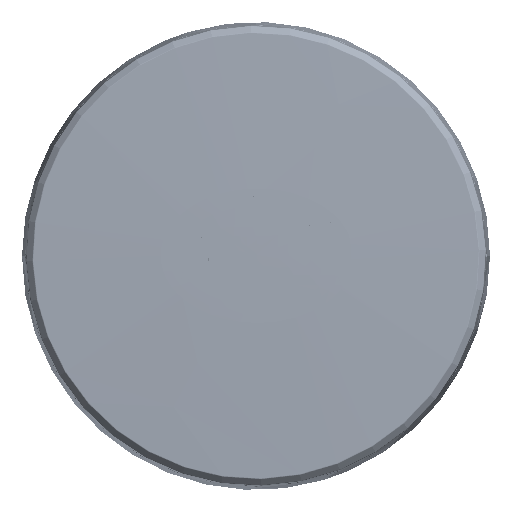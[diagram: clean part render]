
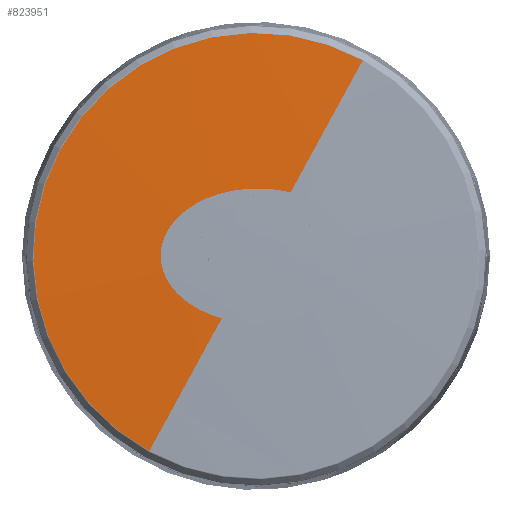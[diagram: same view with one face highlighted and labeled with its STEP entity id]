
A CAD part, top view. The second image highlights one B-rep face of the part: STEP entity #823951.
In plain terms, the highlighted spherical face has radius 2000 mm.
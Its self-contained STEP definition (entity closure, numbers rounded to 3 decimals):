
#823823=AXIS2_PLACEMENT_3D('Sphere Axis2P3D',#823820,#823821,#823822) ;
#823827=AXIS2_PLACEMENT_3D('Circle Axis2P3D',#823825,#823826,$) ;
#823836=AXIS2_PLACEMENT_3D('Circle Axis2P3D',#823834,#823835,$) ;
#823843=AXIS2_PLACEMENT_3D('Circle Axis2P3D',#823841,#823842,$) ;
#823820=CARTESIAN_POINT('Axis2P3D Location',(0.,0.,-1974.28)) ;
#823825=CARTESIAN_POINT('Axis2P3D Location',(0.,0.,-1974.28)) ;
#823829=CARTESIAN_POINT('Vertex',(33.795,61.862,24.477)) ;
#823831=CARTESIAN_POINT('Vertex',(10.931,20.009,25.59)) ;
#823834=CARTESIAN_POINT('Axis2P3D Location',(0.,0.,24.477)) ;
#823838=CARTESIAN_POINT('Vertex',(-33.795,-61.862,24.477)) ;
#823841=CARTESIAN_POINT('Axis2P3D Location',(0.,0.,-1974.28)) ;
#823845=CARTESIAN_POINT('Vertex',(-10.82,-19.807,25.593)) ;
#823849=CARTESIAN_POINT('Control Point',(-30.151,-0.001,25.493)) ;
#823850=CARTESIAN_POINT('Control Point',(-30.151,-0.007,25.493)) ;
#823851=CARTESIAN_POINT('Control Point',(-30.152,-0.012,25.493)) ;
#823852=CARTESIAN_POINT('Control Point',(-30.151,-0.017,25.493)) ;
#823853=CARTESIAN_POINT('Control Point',(-30.151,-0.045,25.493)) ;
#823854=CARTESIAN_POINT('Control Point',(-30.151,-0.073,25.493)) ;
#823855=CARTESIAN_POINT('Control Point',(-30.151,-0.095,25.493)) ;
#823856=CARTESIAN_POINT('Control Point',(-30.15,-0.146,25.493)) ;
#823857=CARTESIAN_POINT('Control Point',(-30.15,-0.196,25.493)) ;
#823858=CARTESIAN_POINT('Control Point',(-30.149,-0.224,25.493)) ;
#823859=CARTESIAN_POINT('Control Point',(-30.148,-0.308,25.493)) ;
#823860=CARTESIAN_POINT('Control Point',(-30.146,-0.391,25.493)) ;
#823861=CARTESIAN_POINT('Control Point',(-30.145,-0.447,25.493)) ;
#823862=CARTESIAN_POINT('Control Point',(-30.14,-0.614,25.493)) ;
#823863=CARTESIAN_POINT('Control Point',(-30.132,-0.781,25.493)) ;
#823864=CARTESIAN_POINT('Control Point',(-30.126,-0.893,25.493)) ;
#823865=CARTESIAN_POINT('Control Point',(-30.105,-1.226,25.493)) ;
#823866=CARTESIAN_POINT('Control Point',(-30.075,-1.559,25.493)) ;
#823867=CARTESIAN_POINT('Control Point',(-30.05,-1.781,25.493)) ;
#823868=CARTESIAN_POINT('Control Point',(-29.965,-2.445,25.494)) ;
#823869=CARTESIAN_POINT('Control Point',(-29.844,-3.103,25.495)) ;
#823870=CARTESIAN_POINT('Control Point',(-29.747,-3.538,25.496)) ;
#823871=CARTESIAN_POINT('Control Point',(-29.474,-4.583,25.498)) ;
#823872=CARTESIAN_POINT('Control Point',(-29.112,-5.601,25.5)) ;
#823873=CARTESIAN_POINT('Control Point',(-28.871,-6.188,25.502)) ;
#823874=CARTESIAN_POINT('Control Point',(-28.525,-6.926,25.505)) ;
#823875=CARTESIAN_POINT('Control Point',(-28.138,-7.641,25.507)) ;
#823876=CARTESIAN_POINT('Control Point',(-28.049,-7.801,25.508)) ;
#823877=CARTESIAN_POINT('Control Point',(-27.461,-8.824,25.512)) ;
#823878=CARTESIAN_POINT('Control Point',(-26.794,-9.795,25.517)) ;
#823879=CARTESIAN_POINT('Control Point',(-26.19,-10.568,25.521)) ;
#823880=CARTESIAN_POINT('Control Point',(-25.025,-11.892,25.529)) ;
#823881=CARTESIAN_POINT('Control Point',(-23.762,-13.077,25.536)) ;
#823882=CARTESIAN_POINT('Control Point',(-23.195,-13.568,25.54)) ;
#823883=CARTESIAN_POINT('Control Point',(-20.451,-15.776,25.556)) ;
#823884=CARTESIAN_POINT('Control Point',(-17.517,-17.422,25.57)) ;
#823885=CARTESIAN_POINT('Control Point',(-15.24,-18.425,25.579)) ;
#823886=CARTESIAN_POINT('Control Point',(-13.007,-19.207,25.587)) ;
#823887=CARTESIAN_POINT('Control Point',(-10.82,-19.807,25.593)) ;
#823888=CARTESIAN_POINT('Vertex',(-30.151,-0.001,25.493)) ;
#823892=CARTESIAN_POINT('Control Point',(-30.151,0.007,25.493)) ;
#823893=CARTESIAN_POINT('Control Point',(-30.151,0.004,25.493)) ;
#823894=CARTESIAN_POINT('Control Point',(-30.151,0.002,25.493)) ;
#823895=CARTESIAN_POINT('Control Point',(-30.151,-0.001,25.493)) ;
#823896=CARTESIAN_POINT('Vertex',(-30.151,0.007,25.493)) ;
#823900=CARTESIAN_POINT('Control Point',(-30.151,0.007,25.493)) ;
#823901=CARTESIAN_POINT('Control Point',(-30.152,1.479,25.493)) ;
#823902=CARTESIAN_POINT('Control Point',(-29.976,2.95,25.494)) ;
#823903=CARTESIAN_POINT('Control Point',(-29.616,4.392,25.497)) ;
#823904=CARTESIAN_POINT('Control Point',(-29.024,5.951,25.501)) ;
#823905=CARTESIAN_POINT('Control Point',(-28.26,7.415,25.507)) ;
#823906=CARTESIAN_POINT('Control Point',(-28.172,7.578,25.507)) ;
#823907=CARTESIAN_POINT('Control Point',(-27.911,8.047,25.509)) ;
#823908=CARTESIAN_POINT('Control Point',(-27.634,8.505,25.511)) ;
#823909=CARTESIAN_POINT('Control Point',(-27.443,8.804,25.512)) ;
#823910=CARTESIAN_POINT('Control Point',(-27.184,9.19,25.514)) ;
#823911=CARTESIAN_POINT('Control Point',(-26.915,9.568,25.516)) ;
#823912=CARTESIAN_POINT('Control Point',(-26.848,9.66,25.516)) ;
#823913=CARTESIAN_POINT('Control Point',(-26.273,10.442,25.52)) ;
#823914=CARTESIAN_POINT('Control Point',(-25.655,11.184,25.524)) ;
#823915=CARTESIAN_POINT('Control Point',(-25.083,11.804,25.528)) ;
#823916=CARTESIAN_POINT('Control Point',(-24.096,12.781,25.534)) ;
#823917=CARTESIAN_POINT('Control Point',(-23.059,13.669,25.54)) ;
#823918=CARTESIAN_POINT('Control Point',(-22.641,14.009,25.543)) ;
#823919=CARTESIAN_POINT('Control Point',(-22.18,14.365,25.545)) ;
#823920=CARTESIAN_POINT('Control Point',(-21.714,14.705,25.548)) ;
#823921=CARTESIAN_POINT('Control Point',(-21.67,14.737,25.548)) ;
#823922=CARTESIAN_POINT('Control Point',(-21.593,14.793,25.549)) ;
#823923=CARTESIAN_POINT('Control Point',(-21.517,14.848,25.549)) ;
#823924=CARTESIAN_POINT('Control Point',(-21.477,14.876,25.549)) ;
#823925=CARTESIAN_POINT('Control Point',(-21.361,14.959,25.55)) ;
#823926=CARTESIAN_POINT('Control Point',(-21.244,15.041,25.551)) ;
#823927=CARTESIAN_POINT('Control Point',(-21.163,15.097,25.551)) ;
#823928=CARTESIAN_POINT('Control Point',(-21.03,15.188,25.552)) ;
#823929=CARTESIAN_POINT('Control Point',(-20.896,15.279,25.552)) ;
#823930=CARTESIAN_POINT('Control Point',(-20.841,15.316,25.553)) ;
#823931=CARTESIAN_POINT('Control Point',(-19.74,16.052,25.559)) ;
#823932=CARTESIAN_POINT('Control Point',(-18.624,16.71,25.564)) ;
#823933=CARTESIAN_POINT('Control Point',(-17.56,17.268,25.569)) ;
#823934=CARTESIAN_POINT('Control Point',(-15.805,18.094,25.576)) ;
#823935=CARTESIAN_POINT('Control Point',(-14.065,18.773,25.583)) ;
#823936=CARTESIAN_POINT('Control Point',(-13.382,19.02,25.585)) ;
#823937=CARTESIAN_POINT('Control Point',(-7.916,20.849,25.603)) ;
#823938=CARTESIAN_POINT('Control Point',(-2.721,21.484,25.61)) ;
#823939=CARTESIAN_POINT('Control Point',(1.582,21.575,25.61)) ;
#823940=CARTESIAN_POINT('Control Point',(6.121,21.224,25.604)) ;
#823941=CARTESIAN_POINT('Control Point',(10.931,20.009,25.59)) ;
#823821=DIRECTION('Axis2P3D Direction',(0.,-0.,-1.)) ;
#823822=DIRECTION('Axis2P3D XDirection',(-0.479,-0.878,0.)) ;
#823826=DIRECTION('Axis2P3D Direction',(-0.878,0.479,0.)) ;
#823835=DIRECTION('Axis2P3D Direction',(0.,-0.,-1.)) ;
#823842=DIRECTION('Axis2P3D Direction',(0.878,-0.479,0.)) ;
#823944=ORIENTED_EDGE('',*,*,#823833,.F.) ;
#823945=ORIENTED_EDGE('',*,*,#823840,.F.) ;
#823946=ORIENTED_EDGE('',*,*,#823847,.T.) ;
#823947=ORIENTED_EDGE('',*,*,#823890,.F.) ;
#823948=ORIENTED_EDGE('',*,*,#823898,.F.) ;
#823949=ORIENTED_EDGE('',*,*,#823942,.T.) ;
#823951=ADVANCED_FACE('K-LED Rebelution with Flexible Pipe Socket',(#823950),#823824,.T.) ;
#823848=B_SPLINE_CURVE_WITH_KNOTS('',5,(#823849,#823850,#823851,#823852,#823853,#823854,#823855,#823856,#823857,#823858,#823859,#823860,#823861,#823862,#823863,#823864,#823865,#823866,#823867,#823868,#823869,#823870,#823871,#823872,#823873,#823874,#823875,#823876,#823877,#823878,#823879,#823880,#823881,#823882,#823883,#823884,#823885,#823886,#823887),.UNSPECIFIED.,.F.,.U.,(6,3,3,3,3,3,3,3,3,3,3,3,6),(0.,1.742,9.262,18.525,37.05,74.1,148.2,296.4,507.066,567.713,901.54,1167.564,2146.504),.UNSPECIFIED.) ;
#823891=B_SPLINE_CURVE_WITH_KNOTS('',3,(#823892,#823893,#823894,#823895),.UNSPECIFIED.,.F.,.U.,(4,4),(0.,0.601),.UNSPECIFIED.) ;
#823899=B_SPLINE_CURVE_WITH_KNOTS('',5,(#823900,#823901,#823902,#823903,#823904,#823905,#823906,#823907,#823908,#823909,#823910,#823911,#823912,#823913,#823914,#823915,#823916,#823917,#823918,#823919,#823920,#823921,#823922,#823923,#823924,#823925,#823926,#823927,#823928,#823929,#823930,#823931,#823932,#823933,#823934,#823935,#823936,#823937,#823938,#823939,#823940,#823941),.UNSPECIFIED.,.F.,.U.,(6,3,3,3,3,3,3,3,3,3,3,3,3,6),(0.,488.868,551.094,668.005,707.252,995.19,1185.543,1202.258,1219.582,1253.995,1278.263,1736.792,2036.581,4145.932),.UNSPECIFIED.) ;
#823828=CIRCLE('generated circle',#823827,2000.) ;
#823837=CIRCLE('generated circle',#823836,70.491) ;
#823844=CIRCLE('generated circle',#823843,2000.) ;
#823833=EDGE_CURVE('',#823830,#823832,#823828,.F.) ;
#823840=EDGE_CURVE('',#823839,#823830,#823837,.T.) ;
#823847=EDGE_CURVE('',#823839,#823846,#823844,.F.) ;
#823890=EDGE_CURVE('',#823889,#823846,#823848,.T.) ;
#823898=EDGE_CURVE('',#823897,#823889,#823891,.T.) ;
#823942=EDGE_CURVE('',#823897,#823832,#823899,.T.) ;
#823943=EDGE_LOOP('',(#823944,#823945,#823946,#823947,#823948,#823949)) ;
#823950=FACE_OUTER_BOUND('',#823943,.T.) ;
#823824=SPHERICAL_SURFACE('',#823823,2000.) ;
#823830=VERTEX_POINT('',#823829) ;
#823832=VERTEX_POINT('',#823831) ;
#823839=VERTEX_POINT('',#823838) ;
#823846=VERTEX_POINT('',#823845) ;
#823889=VERTEX_POINT('',#823888) ;
#823897=VERTEX_POINT('',#823896) ;
